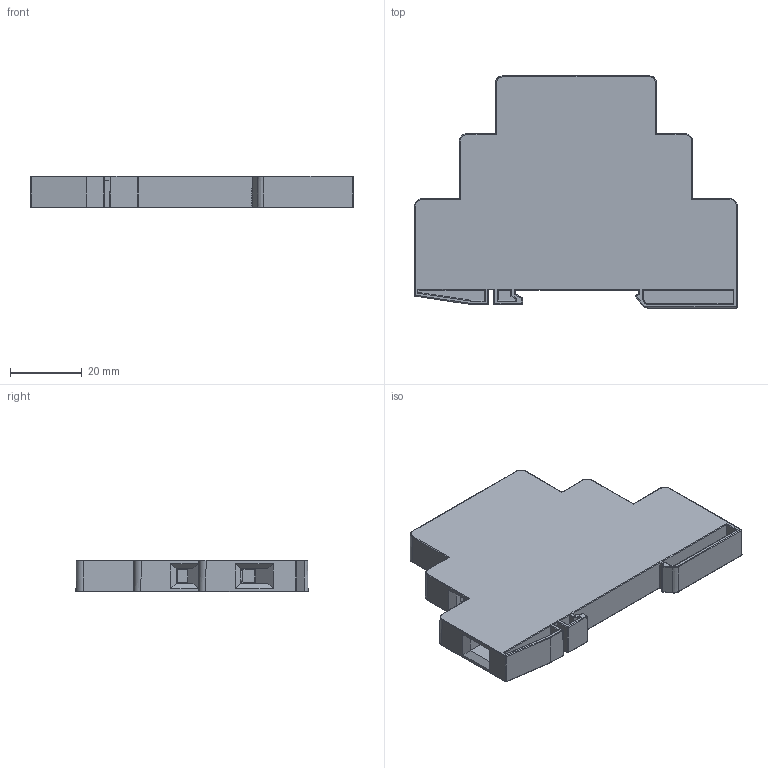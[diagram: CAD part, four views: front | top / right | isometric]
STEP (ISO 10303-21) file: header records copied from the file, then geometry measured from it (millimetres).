
FILE_DESCRIPTION (( 'STEP AP214' ), '1' );
FILE_NAME ('OD-MIG-CO2__upr1.step', '2014-09-03T11:58:52', ( '' ), ( '' ), 'SwSTEP 2.0', 'SolidWorks 2011', '' );
FILE_SCHEMA (( 'AUTOMOTIVE_DESIGN' ));
Length unit declared in the file: millimetre
Products named in the file (1): OD-MIG-CO2__upr1
Bounding box: 90 x 64.7 x 8.8 mm (x, y, z)
Volume: 36006.5 mm3; surface area: 14637.7 mm2
Topology: 1 solids, 14 shells, 761 faces, 1927 edges, 1212 vertices
Faces by surface type: plane 382, cylinder 170, bspline 124, cone 85
Entity records: 42143 total; most frequent: CARTESIAN_POINT 17133, ORIENTED_EDGE 3828, DIRECTION 2759, EDGE_CURVE 1914, VERTEX_POINT 1212, LINE 1083, VECTOR 1083, AXIS2_PLACEMENT_3D 838
